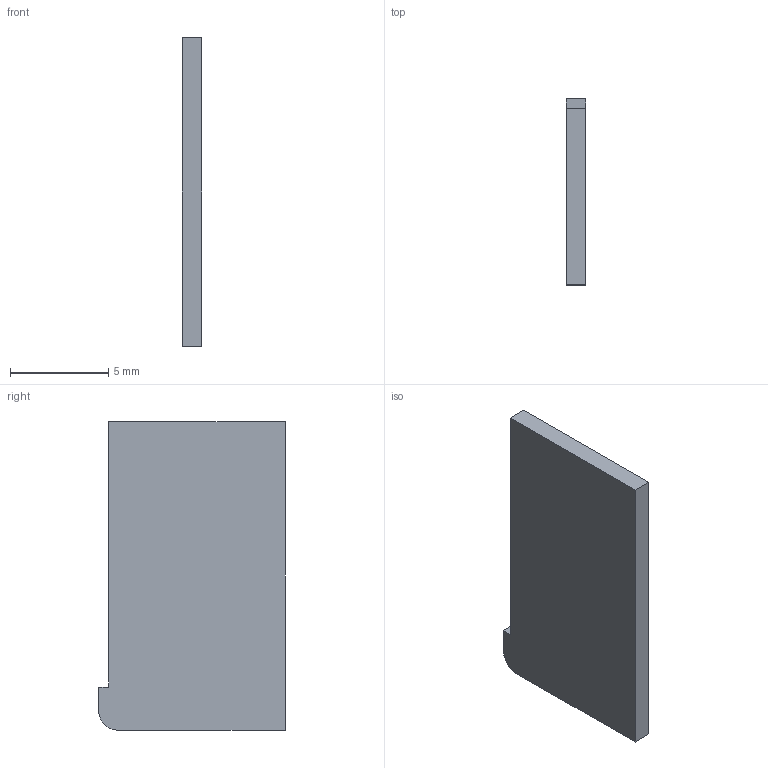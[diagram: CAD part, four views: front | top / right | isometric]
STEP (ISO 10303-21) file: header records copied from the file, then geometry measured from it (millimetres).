
FILE_DESCRIPTION(('STEP AP214'),'1');
FILE_NAME('tmp0.STEP','2026-06-11T19:00:57',(' '),(' '),'Spatial InterOp 3D',' ',' ');
FILE_SCHEMA(('AUTOMOTIVE_DESIGN { 1 0 10303 214 1 1 1 1 }'));
Length unit declared in the file: millimetre
Products named in the file (1): Thickness Data
Bounding box: 1 x 9.5 x 15.7 mm (x, y, z)
Volume: 142.2 mm3; surface area: 334.3 mm2
Topology: 1 solids, 1 shells, 10 faces, 24 edges, 16 vertices
Faces by surface type: plane 8, cylinder 2
Entity records: 317 total; most frequent: CARTESIAN_POINT 51, DIRECTION 50, ORIENTED_EDGE 48, EDGE_CURVE 24, LINE 20, VECTOR 20, VERTEX_POINT 16, AXIS2_PLACEMENT_3D 15
